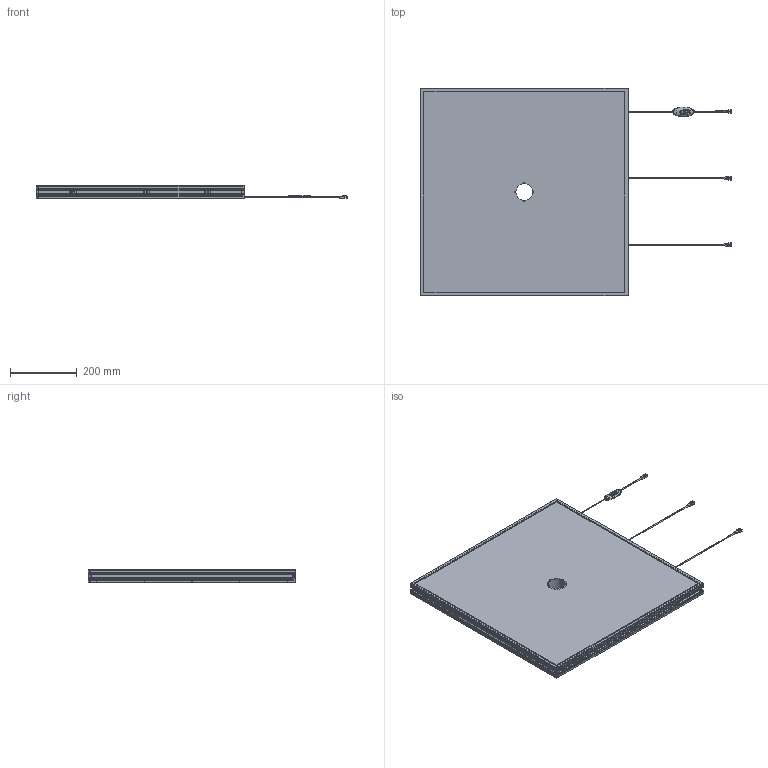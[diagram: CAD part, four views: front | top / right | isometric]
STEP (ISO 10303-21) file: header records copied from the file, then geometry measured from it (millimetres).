
FILE_DESCRIPTION( ('This file contains a STEP AP42 implementation' ,'as created by ZW3D STEP Interface translator.') ,'2;1' );
FILE_NAME( 'VDFHL-600600_DRAWING_3D.stp' ,'25 911.115542', (''), ('ZWCAD Software Co.'), 'Version 1.0', 'ZW3D to STEP translator', '' );
FILE_SCHEMA(('AUTOMOTIVE_DESIGN { 1 0 10303 214 1 1 1 1 }'));
Length unit declared in the file: millimetre
Products named in the file (1): 0
Bounding box: 933.5 x 623 x 38.6 mm (x, y, z)
Volume: 1934336.8 mm3; surface area: 1879589.5 mm2
Topology: 1 solids, 41 shells, 1911 faces, 5130 edges, 3451 vertices
Faces by surface type: plane 1182, cylinder 559, cone 144, bspline 14, torus 12
Full cylindrical faces by diameter (mm): 1.6 x198, 2 x8, 2.2 x36, 3 x4, 50 x1
Entity records: 63694 total; most frequent: CARTESIAN_POINT 13132, ORIENTED_EDGE 10172, DIRECTION 9520, EDGE_CURVE 5086, VECTOR 3632, LINE 3632, VERTEX_POINT 3451, AXIS2_PLACEMENT_3D 2944
